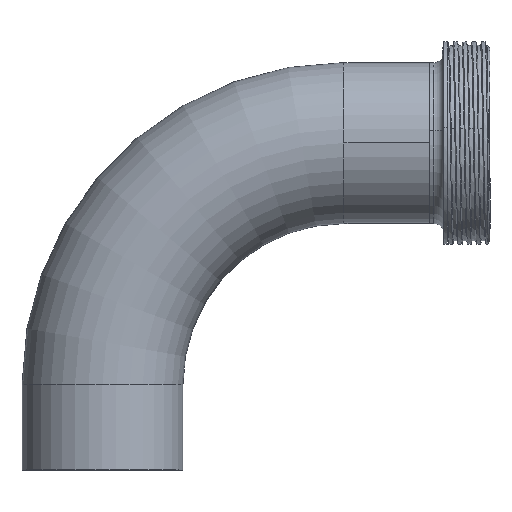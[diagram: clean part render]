
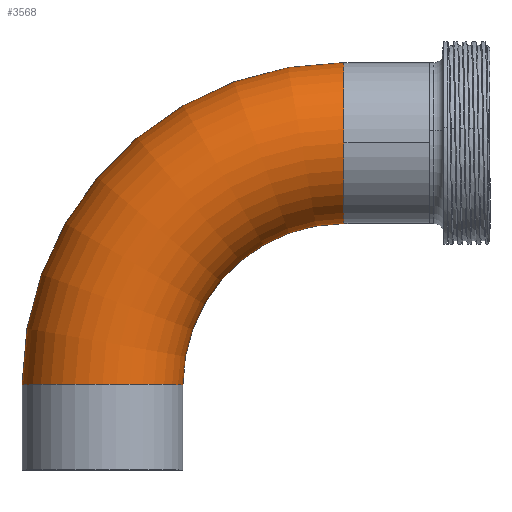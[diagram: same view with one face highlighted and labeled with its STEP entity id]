
A CAD part, top view. The second image highlights one B-rep face of the part: STEP entity #3568.
In plain terms, the highlighted toroidal (fillet/blend) face has major radius 76.2 mm and minor radius 25.4 mm.
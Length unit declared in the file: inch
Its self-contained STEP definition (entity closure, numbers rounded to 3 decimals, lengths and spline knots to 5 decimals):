
#66 = ORIENTED_EDGE ( 'NONE', *, *, #3401, .T. ) ;
#80 = ORIENTED_EDGE ( 'NONE', *, *, #1055, .T. ) ;
#103 = TOROIDAL_SURFACE ( 'NONE', #3701, 3., 1. ) ;
#159 = AXIS2_PLACEMENT_3D ( 'NONE', #3440, #1355, #3796 ) ;
#177 = DIRECTION ( 'NONE',  ( 0., 0., -1. ) ) ;
#306 = DIRECTION ( 'NONE',  ( 0., 0., -1. ) ) ;
#386 = AXIS2_PLACEMENT_3D ( 'NONE', #2391, #306, #2738 ) ;
#566 = DIRECTION ( 'NONE',  ( 0., -1., 0. ) ) ;
#644 = CARTESIAN_POINT ( 'NONE',  ( 3., -1., 0. ) ) ;
#723 = EDGE_CURVE ( 'NONE', #3348, #4184, #2322, .T. ) ;
#760 = DIRECTION ( 'NONE',  ( -1., 0., 0. ) ) ;
#897 = CIRCLE ( 'NONE', #908, 1. ) ;
#908 = AXIS2_PLACEMENT_3D ( 'NONE', #2839, #760, #3193 ) ;
#965 = CARTESIAN_POINT ( 'NONE',  ( 3., 0., 1. ) ) ;
#1055 = EDGE_CURVE ( 'NONE', #2036, #3219, #897, .T. ) ;
#1355 = DIRECTION ( 'NONE',  ( -1., 0., 0. ) ) ;
#1531 = CIRCLE ( 'NONE', #2392, 2. ) ;
#1699 = CARTESIAN_POINT ( 'NONE',  ( 1., -3., 0. ) ) ;
#1776 = AXIS2_PLACEMENT_3D ( 'NONE', #2640, #566, #3001 ) ;
#1864 = FACE_OUTER_BOUND ( 'NONE', #3763, .T. ) ;
#2036 = VERTEX_POINT ( 'NONE', #644 ) ;
#2070 = CARTESIAN_POINT ( 'NONE',  ( 3., -3., 0. ) ) ;
#2085 = CIRCLE ( 'NONE', #159, 1. ) ;
#2272 = CARTESIAN_POINT ( 'NONE',  ( 3., -3., 0. ) ) ;
#2322 = CIRCLE ( 'NONE', #1776, 1. ) ;
#2328 = ORIENTED_EDGE ( 'NONE', *, *, #723, .F. ) ;
#2391 = CARTESIAN_POINT ( 'NONE',  ( 3., -3., 0. ) ) ;
#2392 = AXIS2_PLACEMENT_3D ( 'NONE', #2272, #177, #2606 ) ;
#2418 = DIRECTION ( 'NONE',  ( -1., 0., 0. ) ) ;
#2606 = DIRECTION ( 'NONE',  ( -1., 0., 0. ) ) ;
#2640 = CARTESIAN_POINT ( 'NONE',  ( 0., -3., 0. ) ) ;
#2738 = DIRECTION ( 'NONE',  ( -1., 0., 0. ) ) ;
#2839 = CARTESIAN_POINT ( 'NONE',  ( 3., 0., 0. ) ) ;
#2877 = ORIENTED_EDGE ( 'NONE', *, *, #4494, .T. ) ;
#3001 = DIRECTION ( 'NONE',  ( 1., 0., 0. ) ) ;
#3193 = DIRECTION ( 'NONE',  ( 0., -1., 0. ) ) ;
#3214 = CIRCLE ( 'NONE', #386, 4. ) ;
#3219 = VERTEX_POINT ( 'NONE', #965 ) ;
#3343 = EDGE_CURVE ( 'NONE', #4184, #4364, #3214, .T. ) ;
#3348 = VERTEX_POINT ( 'NONE', #1699 ) ;
#3401 = EDGE_CURVE ( 'NONE', #3219, #4364, #2085, .T. ) ;
#3440 = CARTESIAN_POINT ( 'NONE',  ( 3., 0., 0. ) ) ;
#3568 = ADVANCED_FACE ( 'NONE', ( #1864 ), #103, .T. ) ;
#3669 = CARTESIAN_POINT ( 'NONE',  ( -1., -3., 0. ) ) ;
#3701 = AXIS2_PLACEMENT_3D ( 'NONE', #2070, #4504, #2418 ) ;
#3763 = EDGE_LOOP ( 'NONE', ( #4265, #2328, #2877, #80, #66 ) ) ;
#3796 = DIRECTION ( 'NONE',  ( 0., -1., 0. ) ) ;
#4184 = VERTEX_POINT ( 'NONE', #3669 ) ;
#4265 = ORIENTED_EDGE ( 'NONE', *, *, #3343, .F. ) ;
#4338 = CARTESIAN_POINT ( 'NONE',  ( 3., 1., 0. ) ) ;
#4364 = VERTEX_POINT ( 'NONE', #4338 ) ;
#4494 = EDGE_CURVE ( 'NONE', #3348, #2036, #1531, .T. ) ;
#4504 = DIRECTION ( 'NONE',  ( 0., 0., -1. ) ) ;
